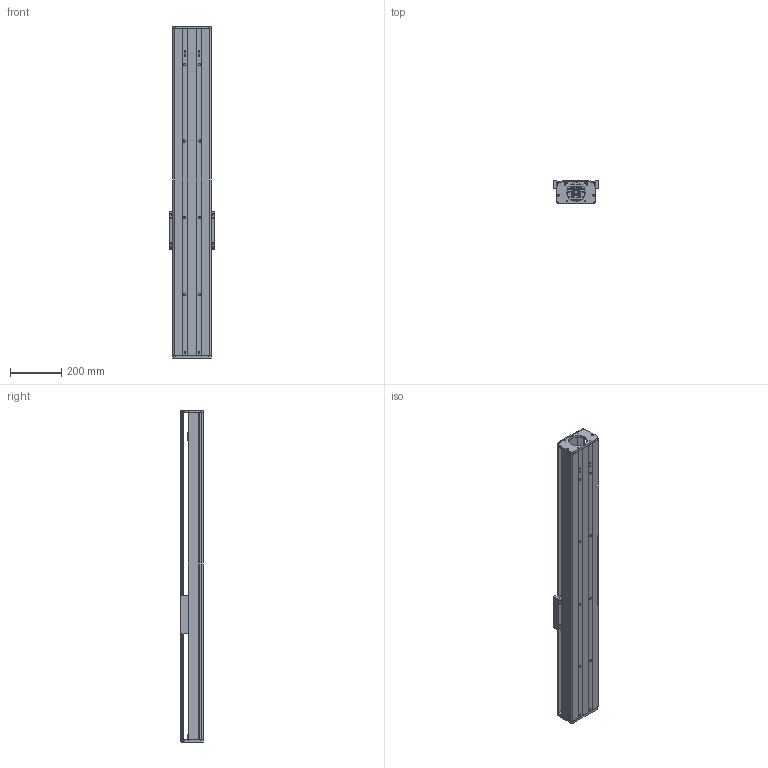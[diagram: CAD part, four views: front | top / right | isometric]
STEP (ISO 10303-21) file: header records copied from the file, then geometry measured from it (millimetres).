
FILE_DESCRIPTION (( 'STEP AP203' ), '1' );
FILE_NAME ('CF150-P1000.STEP', '2016-02-23T05:32:58', ( 'Sky123.Org' ), ( 'Sky123.Org' ), 'SwSTEP 2.0', 'SolidWorks 2015', '' );
FILE_SCHEMA (( 'CONFIG_CONTROL_DESIGN' ));
Length unit declared in the file: millimetre
Products named in the file (20): CF150裔啣; HGR15絳寢; M15X1坶踡蹟譫; hGH15CA賑輸; CF150-P1000; 撑圈-15; BK15+BF15; BK15; 150-20蹟譫釱; 150-86俋离萇儂假蚾啣; SFU2005-3蹟譫; BF15; 蚾饜极2^蚾饜极1; deep groove ball bearings gb_Rolling bearings 6002 GB 276-94; 150賑輸; ѹȦ-15; 150耜啣; 150臏倰第; 长撑圈-15
Assembly tree (24 placements, depth 3):
  CF150-P1000
    150臏倰第
    HGR15絳寢  x2
    hGH15CA賑輸  x4
    BK15+BF15
    150-20蹟譫釱
    150-86俋离萇儂假蚾啣
    BF15
    BK15
      deep groove ball bearings gb_Rolling bearings 6002 GB 276-94  x2
      ѹȦ-15
      长撑圈-15
      M15X1坶踡蹟譫
      撑圈-15
      BK15
    蚾饜极2^蚾饜极1
      SFU2005-3蹟譫
    150賑輸
    150耜啣
    CF150裔啣
Bounding box: 175 x 89 x 1300.24 mm (x, y, z)
Volume: 6180095 mm3; surface area: 1925414.2 mm2
Topology: 22 solids, 22 shells, 1458 faces, 4418 edges, 2942 vertices
Faces by surface type: cylinder 715, plane 547, torus 112, sphere 64, cone 16, bspline 4
Entity records: 115224 total; most frequent: CARTESIAN_POINT 85204, ORIENTED_EDGE 6058, DIRECTION 5583, EDGE_CURVE 3029, AXIS2_PLACEMENT_3D 2110, VERTEX_POINT 2016, EDGE_LOOP 1373, VECTOR 1363
